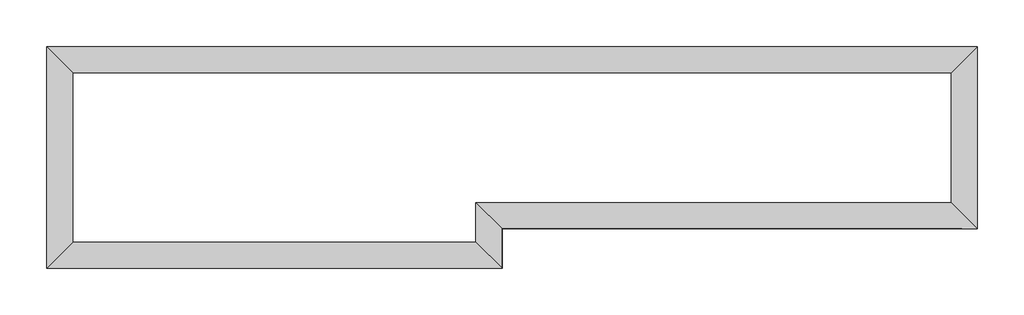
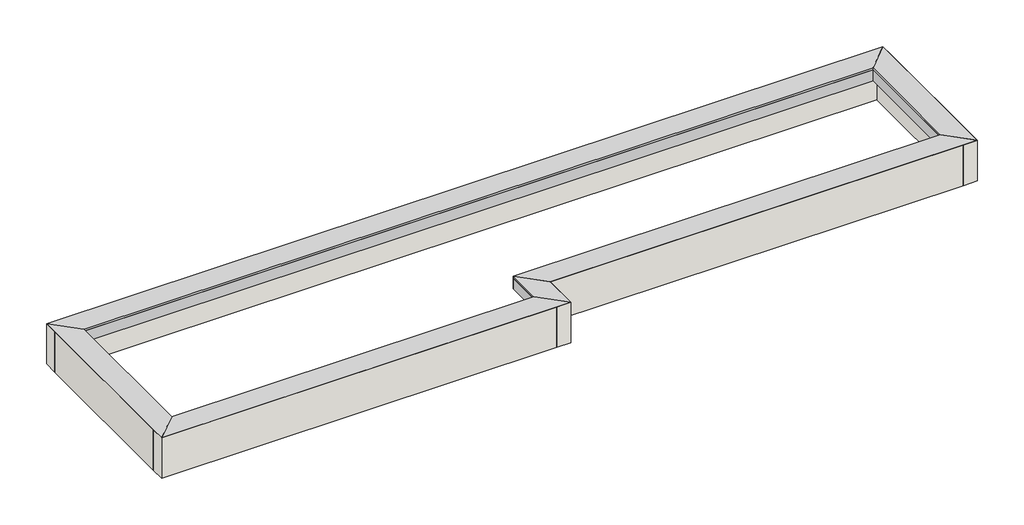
# One storey: 12 proxies, 6 walls.
"""IFC4 building model written with IfcOpenShell, lengths in millimetres."""

from ifc_helpers import new_model, si_unit, frame, origin, place, context, project, spatial, polyline, outline, extrude, faceted_brep, element, save

model = new_model("IFC4")

# Units and contexts
model_context = context("Model", 3, world=origin())
ifc_project = project(units=[si_unit("LENGTHUNIT", "METRE", prefix="MILLI")], contexts=[model_context])

# Site, building, storey
site = spatial("IfcSite", under=ifc_project)
building = spatial("IfcBuilding", under=site)
storey = spatial("IfcBuildingStorey", under=building, Name="PHRFL", Elevation=35600.0)

# Proxies
placement = place(None, origin())
element("IfcBuildingElementProxy", 1, Name="Reveals", at=placement, inside=storey, context=model_context, shape_type="Brep", body=[
    faceted_brep([(-20715.9784025, 15519.6868987, 36170.0), (-20715.9784025, 15519.6868987, 36200.0), (-21045.9784025, 15849.6868987, 36200.0), (-9625.9784025, 15519.6868987, 36170.0), (-9295.9784025, 15849.6868987, 36200.0), (-9625.9784025, 15519.6868987, 36200.0)], [[[0, 1, 2]], [[3, 4, 5]], [[1, 0, 3, 5]], [[2, 1, 5, 4]], [[0, 2, 4, 3]]]),
])
element("IfcBuildingElementProxy", 2, Name="Wall Sweeps", at=placement, inside=storey, context=model_context, shape_type="Brep", body=[
    faceted_brep([(-20715.9784025, 15519.6868987, 36010.0), (-20715.9784025, 15519.6868987, 36170.0), (-21045.9784025, 15849.6868987, 36200.0), (-20845.9784025, 15649.6868987, 36010.0), (-9625.9784025, 15519.6868987, 36010.0), (-9495.9784025, 15649.6868987, 36010.0), (-9295.9784025, 15849.6868987, 36200.0), (-9625.9784025, 15519.6868987, 36170.0)], [[[0, 1, 2, 3]], [[4, 5, 6, 7]], [[1, 0, 4, 7]], [[2, 1, 7, 6]], [[3, 2, 6, 5]], [[0, 3, 5, 4]]]),
])
element("IfcBuildingElementProxy", 3, Name="Reveals", at=placement, inside=storey, context=model_context, shape_type="Brep", body=[
    faceted_brep([(-9625.9784025, 15519.6868987, 36170.0), (-9625.9784025, 15519.6868987, 36200.0), (-9295.9784025, 15849.6868987, 36200.0), (-9625.9784025, 13879.6868987, 36170.0), (-9295.9784025, 13549.6868987, 36200.0), (-9625.9784025, 13879.6868987, 36200.0)], [[[0, 1, 2]], [[3, 4, 5]], [[1, 0, 3, 5]], [[2, 1, 5, 4]], [[0, 2, 4, 3]]]),
])
element("IfcBuildingElementProxy", 4, Name="Wall Sweeps", at=placement, inside=storey, context=model_context, shape_type="Brep", body=[
    faceted_brep([(-9625.9784025, 15519.6868987, 36010.0), (-9625.9784025, 15519.6868987, 36170.0), (-9295.9784025, 15849.6868987, 36200.0), (-9495.9784025, 15649.6868987, 36010.0), (-9625.9784025, 13879.6868987, 36010.0), (-9495.9784025, 13749.6868987, 36010.0), (-9295.9784025, 13549.6868987, 36200.0), (-9625.9784025, 13879.6868987, 36170.0)], [[[0, 1, 2, 3]], [[4, 5, 6, 7]], [[1, 0, 4, 7]], [[2, 1, 7, 6]], [[3, 2, 6, 5]], [[0, 3, 5, 4]]]),
])
element("IfcBuildingElementProxy", 5, Name="Reveals", at=placement, inside=storey, context=model_context, shape_type="Brep", body=[
    faceted_brep([(-9625.9784025, 13879.6868987, 36170.0), (-9625.9784025, 13879.6868987, 36200.0), (-9295.9784025, 13549.6868987, 36200.0), (-15625.9784025, 13879.6868987, 36170.0), (-15295.9784025, 13549.6868987, 36200.0), (-15625.9784025, 13879.6868987, 36200.0)], [[[0, 1, 2]], [[3, 4, 5]], [[1, 0, 3, 5]], [[2, 1, 5, 4]], [[0, 2, 4, 3]]]),
])
element("IfcBuildingElementProxy", 6, Name="Wall Sweeps", at=placement, inside=storey, context=model_context, shape_type="Brep", body=[
    faceted_brep([(-9625.9784025, 13879.6868987, 36010.0), (-9625.9784025, 13879.6868987, 36170.0), (-9295.9784025, 13549.6868987, 36200.0), (-9495.9784025, 13749.6868987, 36010.0), (-15625.9784025, 13879.6868987, 36010.0), (-15495.9784025, 13749.6868987, 36010.0), (-15295.9784025, 13549.6868987, 36200.0), (-15625.9784025, 13879.6868987, 36170.0)], [[[0, 1, 2, 3]], [[4, 5, 6, 7]], [[1, 0, 4, 7]], [[2, 1, 7, 6]], [[3, 2, 6, 5]], [[0, 3, 5, 4]]]),
])
element("IfcBuildingElementProxy", 7, Name="Reveals", at=placement, inside=storey, context=model_context, shape_type="Brep", body=[
    faceted_brep([(-15625.9784025, 13879.6868987, 36170.0), (-15625.9784025, 13879.6868987, 36200.0), (-15295.9784025, 13549.6868987, 36200.0), (-15625.9784025, 13379.6868987, 36170.0), (-15295.9784025, 13049.6868987, 36200.0), (-15625.9784025, 13379.6868987, 36200.0)], [[[0, 1, 2]], [[3, 4, 5]], [[1, 0, 3, 5]], [[2, 1, 5, 4]], [[0, 2, 4, 3]]]),
])
element("IfcBuildingElementProxy", 8, Name="Wall Sweeps", at=placement, inside=storey, context=model_context, shape_type="Brep", body=[
    faceted_brep([(-15625.9784025, 13879.6868987, 36010.0), (-15625.9784025, 13879.6868987, 36170.0), (-15295.9784025, 13549.6868987, 36200.0), (-15495.9784025, 13749.6868987, 36010.0), (-15625.9784025, 13379.6868987, 36010.0), (-15495.9784025, 13249.6868987, 36010.0), (-15295.9784025, 13049.6868987, 36200.0), (-15625.9784025, 13379.6868987, 36170.0)], [[[0, 1, 2, 3]], [[4, 5, 6, 7]], [[1, 0, 4, 7]], [[2, 1, 7, 6]], [[3, 2, 6, 5]], [[0, 3, 5, 4]]]),
])
element("IfcBuildingElementProxy", 9, Name="Reveals", at=placement, inside=storey, context=model_context, shape_type="Brep", body=[
    faceted_brep([(-15625.9784025, 13379.6868987, 36170.0), (-15625.9784025, 13379.6868987, 36200.0), (-15295.9784025, 13049.6868987, 36200.0), (-20715.9784025, 13379.6868987, 36170.0), (-21045.9784025, 13049.6868987, 36200.0), (-20715.9784025, 13379.6868987, 36200.0)], [[[0, 1, 2]], [[3, 4, 5]], [[1, 0, 3, 5]], [[2, 1, 5, 4]], [[0, 2, 4, 3]]]),
])
element("IfcBuildingElementProxy", 10, Name="Wall Sweeps", at=placement, inside=storey, context=model_context, shape_type="Brep", body=[
    faceted_brep([(-15625.9784025, 13379.6868987, 36010.0), (-15625.9784025, 13379.6868987, 36170.0), (-15295.9784025, 13049.6868987, 36200.0), (-15495.9784025, 13249.6868987, 36010.0), (-20715.9784025, 13379.6868987, 36010.0), (-20845.9784025, 13249.6868987, 36010.0), (-21045.9784025, 13049.6868987, 36200.0), (-20715.9784025, 13379.6868987, 36170.0)], [[[0, 1, 2, 3]], [[4, 5, 6, 7]], [[1, 0, 4, 7]], [[2, 1, 7, 6]], [[3, 2, 6, 5]], [[0, 3, 5, 4]]]),
])
element("IfcBuildingElementProxy", 11, Name="Reveals", at=placement, inside=storey, context=model_context, shape_type="Brep", body=[
    faceted_brep([(-20715.9784025, 13379.6868987, 36170.0), (-20715.9784025, 13379.6868987, 36200.0), (-21045.9784025, 13049.6868987, 36200.0), (-20715.9784025, 15519.6868987, 36170.0), (-21045.9784025, 15849.6868987, 36200.0), (-20715.9784025, 15519.6868987, 36200.0)], [[[0, 1, 2]], [[3, 4, 5]], [[1, 0, 3, 5]], [[2, 1, 5, 4]], [[0, 2, 4, 3]]]),
])
element("IfcBuildingElementProxy", 12, Name="Wall Sweeps", at=placement, inside=storey, context=model_context, shape_type="Brep", body=[
    faceted_brep([(-20715.9784025, 13379.6868987, 36010.0), (-20715.9784025, 13379.6868987, 36170.0), (-21045.9784025, 13049.6868987, 36200.0), (-20845.9784025, 13249.6868987, 36010.0), (-20715.9784025, 15519.6868987, 36010.0), (-20845.9784025, 15649.6868987, 36010.0), (-21045.9784025, 15849.6868987, 36200.0), (-20715.9784025, 15519.6868987, 36170.0)], [[[0, 1, 2, 3]], [[4, 5, 6, 7]], [[1, 0, 4, 7]], [[2, 1, 7, 6]], [[3, 2, 6, 5]], [[0, 3, 5, 4]]]),
])

# Walls
element("IfcWall", 13, ObjectType="パラペット200 アゴ", at=placement, inside=storey, context=model_context, shape_type="Brep", body=[
    faceted_brep([(-21045.9784025, 15649.6868987, 35600.0), (-20845.9784025, 15649.6868987, 35600.0), (-9495.9784025, 15649.6868987, 35600.0), (-9295.9784025, 15649.6868987, 35600.0), (-9295.9784025, 15649.6868987, 36200.0), (-9495.9784025, 15649.6868987, 36010.0), (-20845.9784025, 15649.6868987, 36010.0), (-21045.9784025, 15649.6868987, 36200.0), (-9295.9784025, 15849.6868987, 35600.0), (-21045.9784025, 15849.6868987, 35600.0), (-21045.9784025, 15849.6868987, 36200.0), (-9295.9784025, 15849.6868987, 36200.0)], [[[0, 1, 2, 3, 4, 5, 6, 7]], [[8, 9, 10, 11]], [[3, 2, 1, 0, 9, 8]], [[10, 6, 5, 11]], [[4, 3, 8, 11]], [[11, 5, 4]], [[0, 7, 10, 9]], [[6, 10, 7]]]),
])
element("IfcWall", 14, ObjectType="パラペット200 アゴ", at=placement, inside=storey, context=model_context, shape_type="Brep", body=[
    faceted_brep([(-9495.9784025, 15649.6868987, 35600.0), (-9495.9784025, 13749.6868987, 35600.0), (-9495.9784025, 13549.6868987, 35600.0), (-9495.9784025, 13549.6868987, 36200.0), (-9495.9784025, 13749.6868987, 36010.0), (-9495.9784025, 15649.6868987, 36010.0), (-9295.9784025, 13549.6868987, 35600.0), (-9295.9784025, 15649.6868987, 35600.0), (-9295.9784025, 15649.6868987, 36200.0), (-9295.9784025, 13549.6868987, 36200.0)], [[[0, 1, 2, 3, 4, 5]], [[6, 7, 8, 9]], [[2, 1, 0, 7, 6]], [[4, 9, 8, 5]], [[8, 7, 0, 5]], [[3, 2, 6, 9]], [[9, 4, 3]]]),
])
element("IfcWall", 15, ObjectType="パラペット200 アゴ", at=placement, inside=storey, context=model_context, shape_type="SweptSolid", body=[
    extrude(outline(polyline([(13749.6868987, 35600.0), (13549.6868987, 35600.0), (13549.6868987, 36200.0), (13749.6868987, 36010.0), (13749.6868987, 35600.0)])), frame((-15295.9784025, 0.0, 0.0), z_axis=(1.0, 0.0, 0.0), x_axis=(0.0, 1.0, 0.0)), (0.0, 0.0, 1.0), 5800.0),
])
element("IfcWall", 16, ObjectType="パラペット200 アゴ", at=placement, inside=storey, context=model_context, shape_type="Brep", body=[
    faceted_brep([(-15495.9784025, 13749.6868987, 35600.0), (-15495.9784025, 13249.6868987, 35600.0), (-15495.9784025, 13049.6868987, 35600.0), (-15495.9784025, 13049.6868987, 36200.0), (-15495.9784025, 13249.6868987, 36010.0), (-15495.9784025, 13749.6868987, 36010.0), (-15295.9784025, 13049.6868987, 35600.0), (-15295.9784025, 13549.6868987, 35600.0), (-15295.9784025, 13749.6868987, 35600.0), (-15295.9784025, 13749.6868987, 36010.0), (-15295.9784025, 13549.6868987, 36200.0), (-15295.9784025, 13049.6868987, 36200.0)], [[[0, 1, 2, 3, 4, 5]], [[6, 7, 8, 9, 10, 11]], [[2, 1, 0, 8, 7, 6]], [[10, 5, 4, 11]], [[8, 0, 5, 9]], [[5, 10, 9]], [[3, 2, 6, 11]], [[11, 4, 3]]]),
])
element("IfcWall", 17, ObjectType="パラペット200 アゴ", at=placement, inside=storey, context=model_context, shape_type="Brep", body=[
    faceted_brep([(-15495.9784025, 13249.6868987, 35600.0), (-20845.9784025, 13249.6868987, 35600.0), (-21045.9784025, 13249.6868987, 35600.0), (-21045.9784025, 13249.6868987, 36200.0), (-20845.9784025, 13249.6868987, 36010.0), (-15495.9784025, 13249.6868987, 36010.0), (-21045.9784025, 13049.6868987, 35600.0), (-15495.9784025, 13049.6868987, 35600.0), (-15495.9784025, 13049.6868987, 36200.0), (-21045.9784025, 13049.6868987, 36200.0)], [[[0, 1, 2, 3, 4, 5]], [[6, 7, 8, 9]], [[2, 1, 0, 7, 6]], [[4, 9, 8, 5]], [[8, 7, 0, 5]], [[3, 2, 6, 9]], [[9, 4, 3]]]),
])
element("IfcWall", 18, ObjectType="パラペット200 アゴ", at=placement, inside=storey, context=model_context, shape_type="SweptSolid", body=[
    extrude(outline(polyline([(36200.0, -21045.9784025), (35600.0, -21045.9784025), (35600.0, -20845.9784025), (36010.0, -20845.9784025), (36200.0, -21045.9784025)])), frame((0.0, 13249.6868987, 0.0), z_axis=(0.0, 1.0, 0.0), x_axis=(0.0, 0.0, 1.0)), (0.0, 0.0, 1.0), 2400.0),
])

save(model, "model.ifc")
